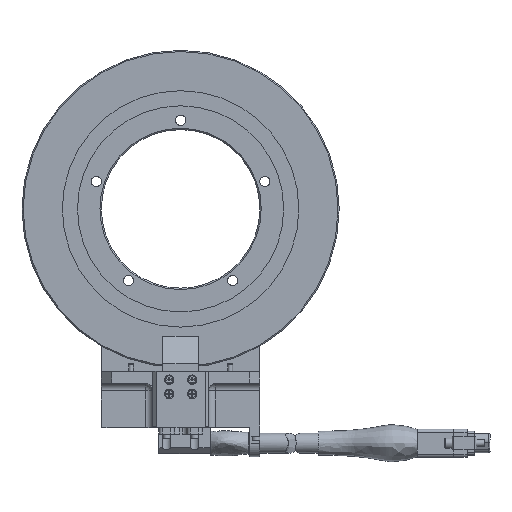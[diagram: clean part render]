
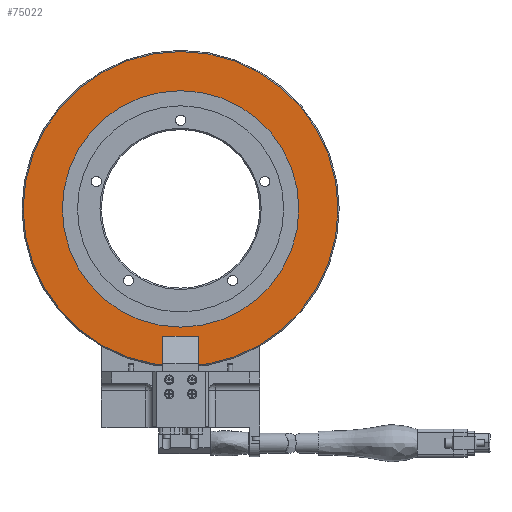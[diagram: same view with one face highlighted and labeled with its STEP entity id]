
A CAD part, front view. The second image highlights one B-rep face of the part: STEP entity #75022.
In plain terms, the highlighted planar face has unit normal (0, -1, 0).
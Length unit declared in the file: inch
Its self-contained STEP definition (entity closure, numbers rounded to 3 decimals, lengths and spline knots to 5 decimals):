
#1214 = DIRECTION ( 'NONE',  ( 0., -1., 0. ) ) ;
#5551 = DIRECTION ( 'NONE',  ( 0., 0., 1. ) ) ;
#6058 = AXIS2_PLACEMENT_3D ( 'NONE', #13038, #25424, #41058 ) ;
#12774 = VERTEX_POINT ( 'NONE', #66959 ) ;
#13038 = CARTESIAN_POINT ( 'NONE',  ( 0., 0.005, 0. ) ) ;
#18553 = EDGE_CURVE ( 'NONE', #88438, #88438, #26382, .T. ) ;
#19390 = EDGE_LOOP ( 'NONE', ( #32910 ) ) ;
#19735 = EDGE_CURVE ( 'NONE', #12774, #12774, #73636, .T. ) ;
#25424 = DIRECTION ( 'NONE',  ( 0., 1., 0. ) ) ;
#26382 = CIRCLE ( 'NONE', #77701, 1.491 ) ;
#32910 = ORIENTED_EDGE ( 'NONE', *, *, #18553, .T. ) ;
#37206 = ORIENTED_EDGE ( 'NONE', *, *, #19735, .T. ) ;
#41058 = DIRECTION ( 'NONE',  ( 1., 0., 0. ) ) ;
#46547 = PLANE ( 'NONE',  #6058 ) ;
#51788 = CARTESIAN_POINT ( 'NONE',  ( 0., 0.005, 0. ) ) ;
#53088 = AXIS2_PLACEMENT_3D ( 'NONE', #51788, #1214, #79765 ) ;
#66959 = CARTESIAN_POINT ( 'NONE',  ( 1.985, 0.005, 0. ) ) ;
#68334 = CARTESIAN_POINT ( 'NONE',  ( 0., 0.005, 1.491 ) ) ;
#68528 = CARTESIAN_POINT ( 'NONE',  ( 0., 0.005, 0. ) ) ;
#73636 = CIRCLE ( 'NONE', #53088, 1.985 ) ;
#75022 = ADVANCED_FACE ( 'NONE', ( #82770, #75466 ), #46547, .F. ) ;
#75387 = DIRECTION ( 'NONE',  ( 0., 1., 0. ) ) ;
#75466 = FACE_BOUND ( 'NONE', #19390, .T. ) ;
#77701 = AXIS2_PLACEMENT_3D ( 'NONE', #68528, #75387, #5551 ) ;
#77754 = EDGE_LOOP ( 'NONE', ( #37206 ) ) ;
#79765 = DIRECTION ( 'NONE',  ( 1., 0., 0. ) ) ;
#82770 = FACE_OUTER_BOUND ( 'NONE', #77754, .T. ) ;
#88438 = VERTEX_POINT ( 'NONE', #68334 ) ;
